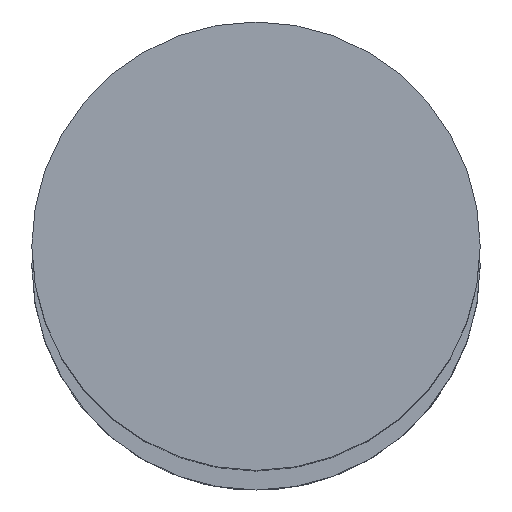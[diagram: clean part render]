
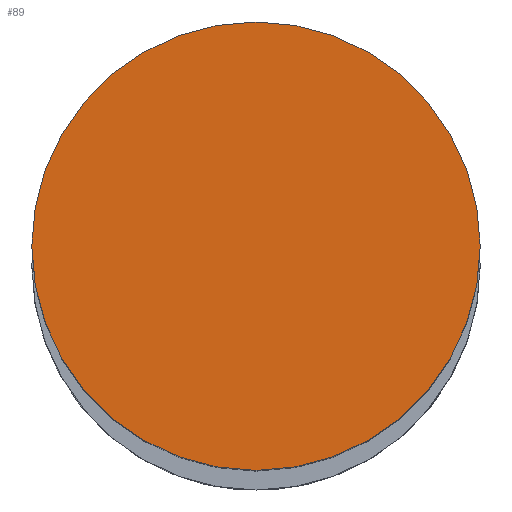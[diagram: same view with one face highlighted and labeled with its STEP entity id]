
A CAD part, top view. The second image highlights one B-rep face of the part: STEP entity #89.
In plain terms, the highlighted planar face has unit normal (0, 0, 1).
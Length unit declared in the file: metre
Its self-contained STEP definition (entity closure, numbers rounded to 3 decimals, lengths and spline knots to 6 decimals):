
#89=ADVANCED_FACE('0:129',(#177),#178,.T.);
#177=FACE_OUTER_BOUND('',#269,.T.);
#178=PLANE('',#270);
#269=EDGE_LOOP('',(#430,#431));
#270=AXIS2_PLACEMENT_3D('',#432,#433,#434);
#430=ORIENTED_EDGE('',*,*,#503,.F.);
#431=ORIENTED_EDGE('',*,*,#549,.F.);
#432=CARTESIAN_POINT('',(0.,0.,0.329));
#433=DIRECTION('',(0.0,0.0,1.0));
#434=DIRECTION('',(1.0,0.0,0.0));
#503=EDGE_CURVE('13:581',#587,#583,#589,.F.);
#549=EDGE_CURVE('',#583,#587,#656,.F.);
#583=VERTEX_POINT('',#707);
#587=VERTEX_POINT('',#712);
#589=CIRCLE('',#715,0.008);
#656=CIRCLE('',#796,0.008);
#707=CARTESIAN_POINT('',(0.00789,0.000133,0.329));
#712=CARTESIAN_POINT('',(-0.00811,0.000133,0.329));
#715=AXIS2_PLACEMENT_3D('',#856,#857,#858);
#796=AXIS2_PLACEMENT_3D('',#924,#925,#926);
#856=CARTESIAN_POINT('',(-0.00011,0.000133,0.329));
#857=DIRECTION('',(0.0,0.0,1.0));
#858=DIRECTION('',(1.0,0.0,0.0));
#924=CARTESIAN_POINT('',(-0.00011,0.000133,0.329));
#925=DIRECTION('',(0.0,0.0,1.0));
#926=DIRECTION('',(1.0,0.0,0.0));
